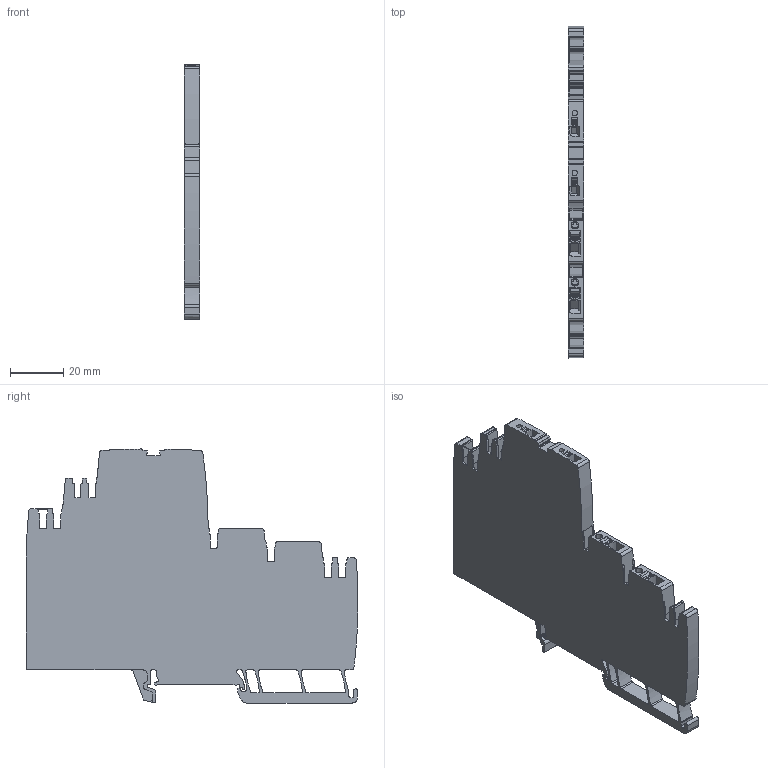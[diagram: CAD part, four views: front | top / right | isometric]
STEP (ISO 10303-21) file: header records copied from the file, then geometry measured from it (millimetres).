
FILE_DESCRIPTION(('CATIA V5R24 STEP','CAx-IF Rec.Pracs.--- Model Styling and Organization---1.2---2011-12-15'),'2;1');
FILE_NAME('\\SRVDE107\Germany\WMC\1_WMC_Input\Step_BU_PA\2495040000.stp','2016-12-15T10:21:52+00:00',('Weidmueller Interface'),('WI'),'CATIA Version 5-6 Release 2014 SP4','CATIA V5 STEP AP214','none');
FILE_SCHEMA(('AUTOMOTIVE_DESIGN { 1 0 10303 214 1 1 1 1 }'));
Length unit declared in the file: millimetre
Products named in the file (1): 2495040000
Bounding box: 6 x 125.07 x 95.73 mm (x, y, z)
Volume: 25601 mm3; surface area: 33295.1 mm2
Topology: 6 solids, 6 shells, 885 faces, 2737 edges, 1879 vertices
Faces by surface type: plane 502, cylinder 342, extrusion 41
Entity records: 31724 total; most frequent: CARTESIAN_POINT 7274, ORIENTED_EDGE 5474, DIRECTION 3934, EDGE_CURVE 2737, VERTEX_POINT 1879, VECTOR 1823, LINE 1782, AXIS2_PLACEMENT_3D 1384
